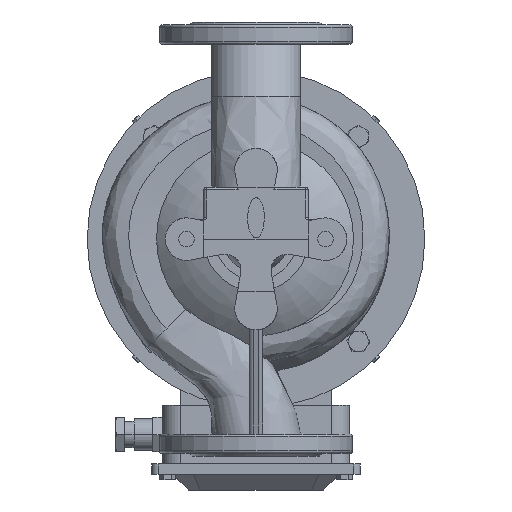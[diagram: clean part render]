
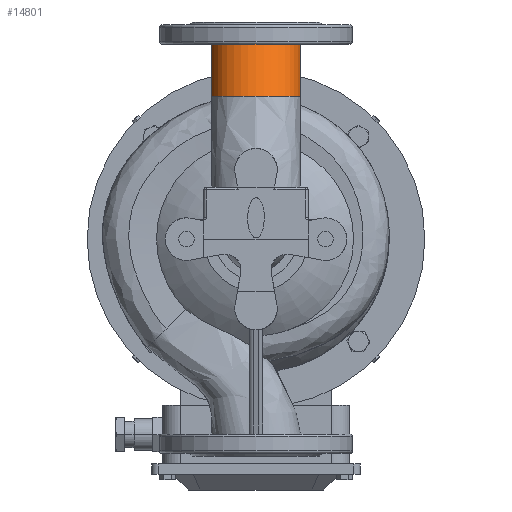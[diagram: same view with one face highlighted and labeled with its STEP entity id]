
A CAD part, front view. The second image highlights one B-rep face of the part: STEP entity #14801.
In plain terms, the highlighted free-form (B-spline) face has degree [3, 1] with [4, 2] control points.
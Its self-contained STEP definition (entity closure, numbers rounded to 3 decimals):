
#11 = CARTESIAN_POINT ( 'NONE',  ( 46., -123.292, 147.801 ) ) ;
#720 = AXIS2_PLACEMENT_3D ( 'NONE', #45547, #9565, #47952 ) ;
#1011 = CARTESIAN_POINT ( 'NONE',  ( -46., 0., 202. ) ) ;
#1848 = VERTEX_POINT ( 'NONE', #14758 ) ;
#3790 = B_SPLINE_CURVE_WITH_KNOTS ( 'NONE', 1,
 ( #49165, #1011 ),
 .UNSPECIFIED., .F., .F.,
 ( 2, 2 ),
 ( 0., 1. ),
 .UNSPECIFIED. ) ;
#5614 = EDGE_CURVE ( 'NONE', #21067, #15216, #15307, .T. ) ;
#5918 = CARTESIAN_POINT ( 'NONE',  ( -46., -31.292, 147.801 ) ) ;
#6203 = CIRCLE ( 'NONE', #720, 46. ) ;
#6363 = AXIS2_PLACEMENT_3D ( 'NONE', #35138, #56125, #40396 ) ;
#9565 = DIRECTION ( 'NONE',  ( 0., 0., -1. ) ) ;
#13424 = ORIENTED_EDGE ( 'NONE', *, *, #36394, .F. ) ;
#14758 = CARTESIAN_POINT ( 'NONE',  ( -46., 0., 202. ) ) ;
#14801 = ADVANCED_FACE ( 'NONE', ( #15363 ), #68228, .F. ) ;
#15216 = VERTEX_POINT ( 'NONE', #37497 ) ;
#15307 = CIRCLE ( 'NONE', #6363, 46. ) ;
#15363 = FACE_OUTER_BOUND ( 'NONE', #28845, .T. ) ;
#16059 = CARTESIAN_POINT ( 'NONE',  ( 46., -92., 202. ) ) ;
#18570 = VERTEX_POINT ( 'NONE', #45749 ) ;
#21067 = VERTEX_POINT ( 'NONE', #28338 ) ;
#21958 = CARTESIAN_POINT ( 'NONE',  ( 46., 0., 202. ) ) ;
#28338 = CARTESIAN_POINT ( 'NONE',  ( 46., -31.292, 147.801 ) ) ;
#28845 = EDGE_LOOP ( 'NONE', ( #67589, #37113, #41138, #13424 ) ) ;
#35138 = CARTESIAN_POINT ( 'NONE',  ( 0., -31.292, 147.801 ) ) ;
#36394 = EDGE_CURVE ( 'NONE', #15216, #1848, #3790, .T. ) ;
#37113 = ORIENTED_EDGE ( 'NONE', *, *, #63164, .T. ) ;
#37497 = CARTESIAN_POINT ( 'NONE',  ( -46., -31.292, 147.801 ) ) ;
#40396 = DIRECTION ( 'NONE',  ( -1., 0., 0. ) ) ;
#40871 = CARTESIAN_POINT ( 'NONE',  ( 46., 0., 202. ) ) ;
#41138 = ORIENTED_EDGE ( 'NONE', *, *, #56943, .T. ) ;
#42086 = B_SPLINE_CURVE_WITH_KNOTS ( 'NONE', 1,
 ( #57308, #40871 ),
 .UNSPECIFIED., .F., .F.,
 ( 2, 2 ),
 ( 0., 1. ),
 .UNSPECIFIED. ) ;
#43249 = CARTESIAN_POINT ( 'NONE',  ( -46., 0., 202. ) ) ;
#45547 = CARTESIAN_POINT ( 'NONE',  ( 0., 0., 202. ) ) ;
#45749 = CARTESIAN_POINT ( 'NONE',  ( 46., 0., 202. ) ) ;
#47143 = CARTESIAN_POINT ( 'NONE',  ( -46., -123.292, 147.801 ) ) ;
#47952 = DIRECTION ( 'NONE',  ( -1., 0., 0. ) ) ;
#49165 = CARTESIAN_POINT ( 'NONE',  ( -46., -31.292, 147.801 ) ) ;
#53765 = CARTESIAN_POINT ( 'NONE',  ( 46., -31.292, 147.801 ) ) ;
#56125 = DIRECTION ( 'NONE',  ( 0., 0., -1. ) ) ;
#56943 = EDGE_CURVE ( 'NONE', #18570, #1848, #6203, .T. ) ;
#57308 = CARTESIAN_POINT ( 'NONE',  ( 46., -31.292, 147.801 ) ) ;
#63164 = EDGE_CURVE ( 'NONE', #21067, #18570, #42086, .T. ) ;
#63529 = CARTESIAN_POINT ( 'NONE',  ( -46., -92., 202. ) ) ;
#67589 = ORIENTED_EDGE ( 'NONE', *, *, #5614, .F. ) ;
#68228 =( BOUNDED_SURFACE ( )  B_SPLINE_SURFACE ( 3, 1, ( 
 ( #53765, #21958 ),
 ( #11, #16059 ),
 ( #47143, #63529 ),
 ( #5918, #43249 ) ),
 .UNSPECIFIED., .F., .F., .F. ) 
 B_SPLINE_SURFACE_WITH_KNOTS ( ( 4, 4 ),
 ( 2, 2 ),
 ( 0.5, 1. ),
 ( 0., 1. ),
 .UNSPECIFIED. ) 
 GEOMETRIC_REPRESENTATION_ITEM ( )  RATIONAL_B_SPLINE_SURFACE ( (
 ( 1., 1.),
 ( 0.333, 0.333),
 ( 0.333, 0.333),
 ( 1., 1.) ) ) 
 REPRESENTATION_ITEM ( '' )  SURFACE ( )  );
